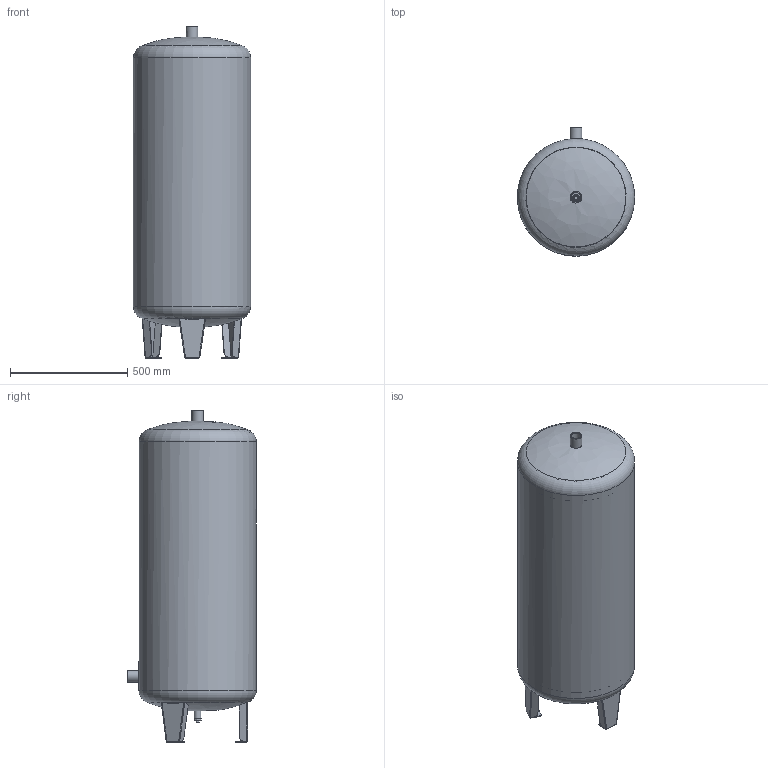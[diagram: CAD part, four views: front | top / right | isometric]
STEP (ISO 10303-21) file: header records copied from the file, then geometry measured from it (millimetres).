
FILE_DESCRIPTION((''),'2;1');
FILE_NAME('C:\Vault\Inventor\Expansion\elko-mat\EV\EV 200\EV200-10-110.stp','2012-06-11T14:09:30',('Walder'),(''),'Autodesk Inventor 11','Autodesk Inventor 11','');
FILE_SCHEMA(('AUTOMOTIVE_DESIGN { 1 0 10303 214 1 1 1 1 }'));
Length unit declared in the file: millimetre
Products named in the file (1): EV200-10-110
Bounding box: 500 x 548 x 1415.59 mm (x, y, z)
Volume: 9446931.8 mm3; surface area: 4475088.6 mm2
Topology: 3 solids, 3 shells, 441 faces, 1080 edges, 656 vertices
Faces by surface type: plane 207, cylinder 115, bspline 113, torus 3, cone 3
Full cylindrical faces by diameter (mm): 14 x1, 20 x1, 20.96 x1, 27 x1, 41.91 x1, 50 x2, 490 x2, 492 x1, 500 x1
Entity records: 19171 total; most frequent: CARTESIAN_POINT 9683, ORIENTED_EDGE 2082, DIRECTION 1641, EDGE_CURVE 1041, VERTEX_POINT 646, VECTOR 623, LINE 623, AXIS2_PLACEMENT_3D 509
